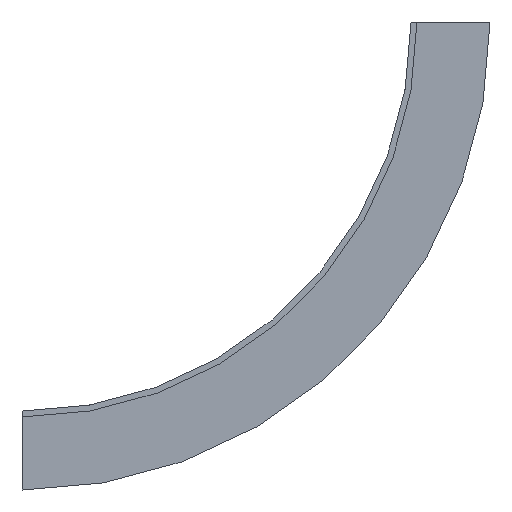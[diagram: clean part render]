
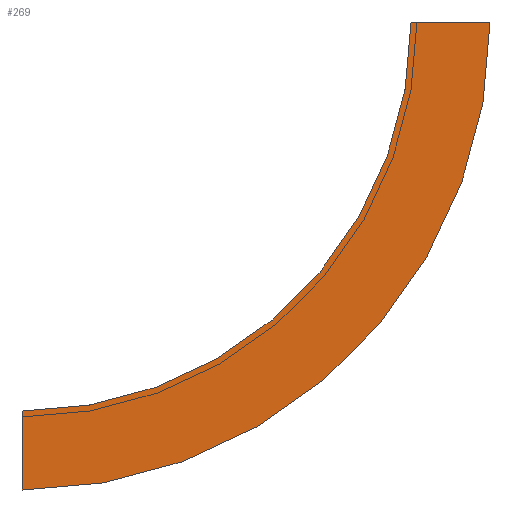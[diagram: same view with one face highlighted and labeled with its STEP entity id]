
A CAD part, left-side view. The second image highlights one B-rep face of the part: STEP entity #269.
In plain terms, the highlighted planar face has unit normal (-1, 0, 0).
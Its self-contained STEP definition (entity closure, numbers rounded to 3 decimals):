
#7 = EDGE_CURVE ( 'NONE', #431, #60, #219, .T. ) ;
#8 = ORIENTED_EDGE ( 'NONE', *, *, #435, .F. ) ;
#28 = ORIENTED_EDGE ( 'NONE', *, *, #7, .F. ) ;
#33 = DIRECTION ( 'NONE',  ( -1., 0., 0. ) ) ;
#56 = CARTESIAN_POINT ( 'NONE',  ( -303.5, 98.5, -98.5 ) ) ;
#60 = VERTEX_POINT ( 'NONE', #512 ) ;
#63 = LINE ( 'NONE', #533, #221 ) ;
#69 = FACE_OUTER_BOUND ( 'NONE', #517, .T. ) ;
#74 = PLANE ( 'NONE',  #483 ) ;
#104 = DIRECTION ( 'NONE',  ( 0., -1., 0. ) ) ;
#110 = DIRECTION ( 'NONE',  ( -1., 0., 0. ) ) ;
#112 = CARTESIAN_POINT ( 'NONE',  ( -303.5, 0., 0. ) ) ;
#129 = CARTESIAN_POINT ( 'NONE',  ( -303.5, 98.5, -118.5 ) ) ;
#151 = DIRECTION ( 'NONE',  ( 0., 0., 1. ) ) ;
#168 = CARTESIAN_POINT ( 'NONE',  ( -303.5, 98.5, 0. ) ) ;
#189 = CARTESIAN_POINT ( 'NONE',  ( -303.5, -20., 0. ) ) ;
#212 = ORIENTED_EDGE ( 'NONE', *, *, #340, .F. ) ;
#219 = CIRCLE ( 'NONE', #261, 118.5 ) ;
#221 = VECTOR ( 'NONE', #104, 1000. ) ;
#261 = AXIS2_PLACEMENT_3D ( 'NONE', #366, #459, #371 ) ;
#269 = ADVANCED_FACE ( 'NONE', ( #69 ), #74, .T. ) ;
#294 = CARTESIAN_POINT ( 'NONE',  ( -303.5, 98.5, 0. ) ) ;
#340 = EDGE_CURVE ( 'NONE', #60, #472, #507, .T. ) ;
#343 = EDGE_CURVE ( 'NONE', #544, #431, #63, .T. ) ;
#360 = DIRECTION ( 'NONE',  ( 0., 0., 1. ) ) ;
#366 = CARTESIAN_POINT ( 'NONE',  ( -303.5, 98.5, 0. ) ) ;
#367 = CIRCLE ( 'NONE', #523, 98.5 ) ;
#371 = DIRECTION ( 'NONE',  ( 0., 0., -1. ) ) ;
#431 = VERTEX_POINT ( 'NONE', #189 ) ;
#435 = EDGE_CURVE ( 'NONE', #472, #544, #367, .T. ) ;
#459 = DIRECTION ( 'NONE',  ( 1., 0., 0. ) ) ;
#472 = VERTEX_POINT ( 'NONE', #56 ) ;
#474 = ORIENTED_EDGE ( 'NONE', *, *, #343, .F. ) ;
#483 = AXIS2_PLACEMENT_3D ( 'NONE', #168, #33, #360 ) ;
#507 = LINE ( 'NONE', #129, #589 ) ;
#512 = CARTESIAN_POINT ( 'NONE',  ( -303.5, 98.5, -118.5 ) ) ;
#517 = EDGE_LOOP ( 'NONE', ( #212, #28, #474, #8 ) ) ;
#523 = AXIS2_PLACEMENT_3D ( 'NONE', #294, #110, #528 ) ;
#528 = DIRECTION ( 'NONE',  ( 0., 0., 1. ) ) ;
#533 = CARTESIAN_POINT ( 'NONE',  ( -303.5, 0., 0. ) ) ;
#544 = VERTEX_POINT ( 'NONE', #112 ) ;
#589 = VECTOR ( 'NONE', #151, 1000. ) ;
